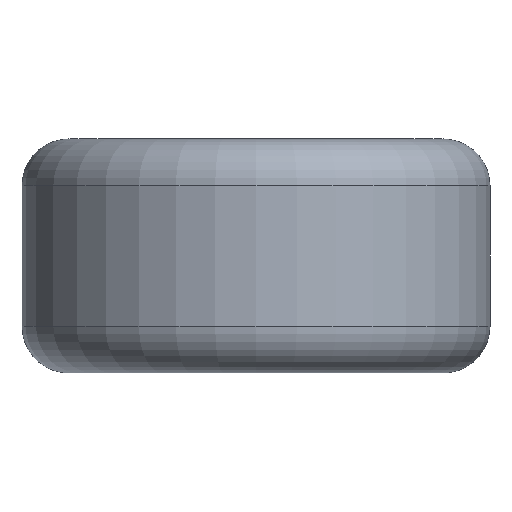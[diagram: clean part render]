
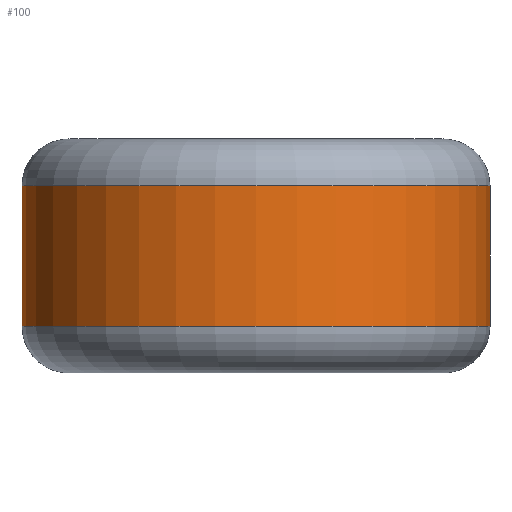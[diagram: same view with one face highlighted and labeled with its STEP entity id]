
A CAD part, front view. The second image highlights one B-rep face of the part: STEP entity #100.
In plain terms, the highlighted cylindrical face has radius 5 mm (diameter 10 mm), a full revolution.
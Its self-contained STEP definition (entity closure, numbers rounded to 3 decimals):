
#19=LINE('',#192,#22);
#22=VECTOR('',#156,5.);
#25=CYLINDRICAL_SURFACE('',#131,5.);
#29=FACE_OUTER_BOUND('',#37,.T.);
#37=EDGE_LOOP('',(#77,#78,#79,#80));
#45=CIRCLE('',#128,5.);
#48=CIRCLE('',#132,5.);
#54=VERTEX_POINT('',#185);
#56=VERTEX_POINT('',#191);
#61=EDGE_CURVE('',#54,#54,#45,.T.);
#64=EDGE_CURVE('',#54,#56,#19,.T.);
#65=EDGE_CURVE('',#56,#56,#48,.T.);
#77=ORIENTED_EDGE('',*,*,#61,.F.);
#78=ORIENTED_EDGE('',*,*,#64,.T.);
#79=ORIENTED_EDGE('',*,*,#65,.F.);
#80=ORIENTED_EDGE('',*,*,#64,.F.);
#100=ADVANCED_FACE('',(#29),#25,.T.);
#128=AXIS2_PLACEMENT_3D('',#186,#148,#149);
#131=AXIS2_PLACEMENT_3D('',#190,#154,#155);
#132=AXIS2_PLACEMENT_3D('',#193,#157,#158);
#148=DIRECTION('center_axis',(0.,0.,1.));
#149=DIRECTION('ref_axis',(-1.,0.,0.));
#154=DIRECTION('center_axis',(0.,0.,1.));
#155=DIRECTION('ref_axis',(-1.,0.,0.));
#156=DIRECTION('',(0.,0.,-1.));
#157=DIRECTION('center_axis',(0.,0.,-1.));
#158=DIRECTION('ref_axis',(-1.,0.,0.));
#185=CARTESIAN_POINT('',(5.,0.,4.));
#186=CARTESIAN_POINT('Origin',(0.,0.,4.));
#190=CARTESIAN_POINT('Origin',(0.,0.,0.));
#191=CARTESIAN_POINT('',(5.,0.,1.));
#192=CARTESIAN_POINT('',(5.,0.,0.));
#193=CARTESIAN_POINT('Origin',(0.,0.,1.));
